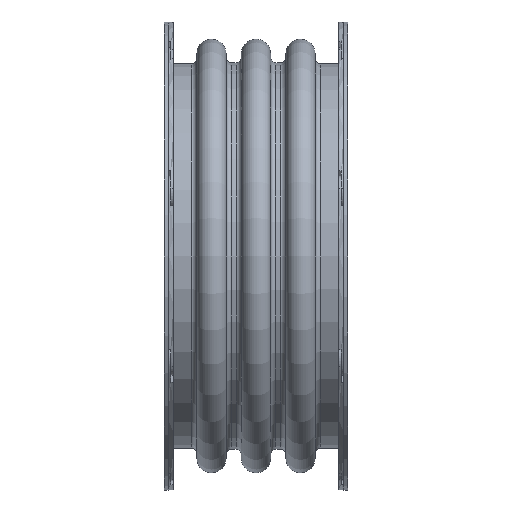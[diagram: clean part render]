
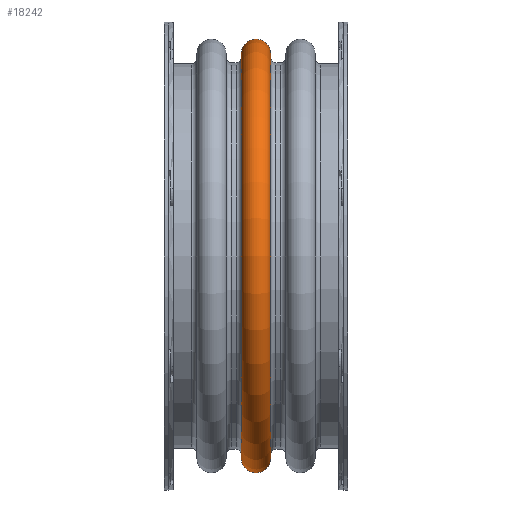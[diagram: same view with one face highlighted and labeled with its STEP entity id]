
A CAD part, front view. The second image highlights one B-rep face of the part: STEP entity #18242.
In plain terms, the highlighted toroidal (fillet/blend) face has major radius 504.825 mm and minor radius 36.513 mm.
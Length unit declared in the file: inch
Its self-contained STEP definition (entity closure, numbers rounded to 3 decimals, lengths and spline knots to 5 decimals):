
#313=FACE_BOUND('',#3107,.T.);
#1278=TOROIDAL_SURFACE('',#20103,19.875,1.4375);
#1833=FACE_OUTER_BOUND('',#3106,.T.);
#3106=EDGE_LOOP('',(#14046));
#3107=EDGE_LOOP('',(#14047));
#6428=CIRCLE('',#20102,19.92263);
#6429=CIRCLE('',#20104,19.92263);
#8110=VERTEX_POINT('',#30535);
#8111=VERTEX_POINT('',#30538);
#10256=EDGE_CURVE('',#8110,#8110,#6428,.T.);
#10257=EDGE_CURVE('',#8111,#8111,#6429,.T.);
#14046=ORIENTED_EDGE('',*,*,#10257,.F.);
#14047=ORIENTED_EDGE('',*,*,#10256,.T.);
#18242=ADVANCED_FACE('',(#1833,#313),#1278,.T.);
#20102=AXIS2_PLACEMENT_3D('',#30536,#24535,#24536);
#20103=AXIS2_PLACEMENT_3D('',#30537,#24537,#24538);
#20104=AXIS2_PLACEMENT_3D('',#30539,#24539,#24540);
#24535=DIRECTION('center_axis',(1.,0.,0.));
#24536=DIRECTION('ref_axis',(0.,0.,-1.));
#24537=DIRECTION('center_axis',(1.,0.,0.));
#24538=DIRECTION('ref_axis',(0.,0.,-1.));
#24539=DIRECTION('center_axis',(1.,0.,0.));
#24540=DIRECTION('ref_axis',(0.,0.,-1.));
#30535=CARTESIAN_POINT('',(-1.43671,19.92263,0.));
#30536=CARTESIAN_POINT('Origin',(-1.43671,0.,
0.));
#30537=CARTESIAN_POINT('Origin',(0.,0.,
0.));
#30538=CARTESIAN_POINT('',(1.43671,19.92263,0.));
#30539=CARTESIAN_POINT('Origin',(1.43671,0.,0.));
